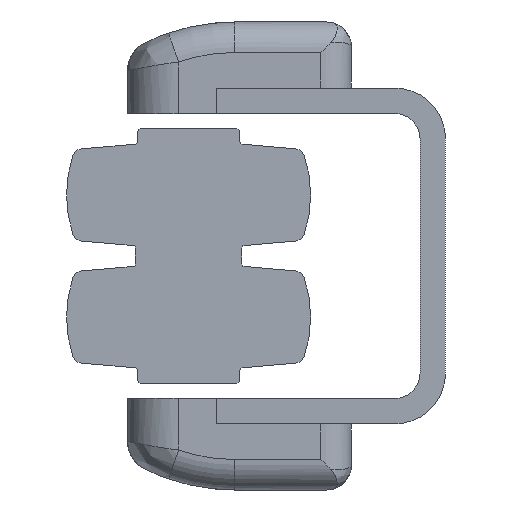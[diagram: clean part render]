
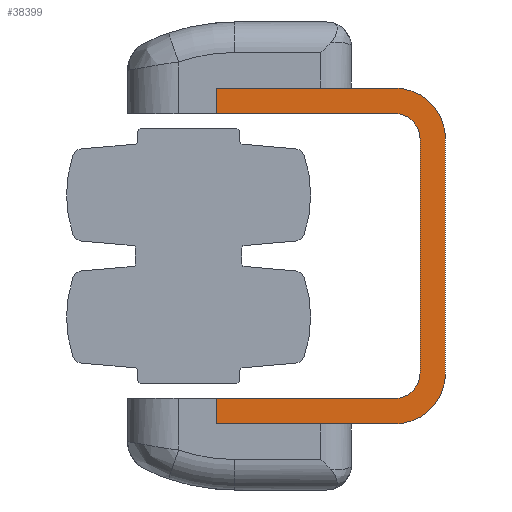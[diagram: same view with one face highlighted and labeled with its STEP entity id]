
A CAD part, left-side view. The second image highlights one B-rep face of the part: STEP entity #38399.
In plain terms, the highlighted planar face has unit normal (-1, 0, 0).
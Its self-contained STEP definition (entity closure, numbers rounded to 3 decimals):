
#18763=EDGE_CURVE('',#53745,#53746,#53747,.T.);
#21275=EDGE_CURVE('',#58094,#58095,#58096,.T.);
#26719=EDGE_CURVE('',#64265,#58289,#66720,.T.);
#26839=EDGE_CURVE('',#66902,#64265,#66903,.T.);
#28147=EDGE_CURVE('',#58095,#66902,#68816,.T.);
#28795=EDGE_CURVE('',#69761,#53745,#69762,.F.);
#34417=EDGE_CURVE('',#77416,#69761,#77417,.T.);
#34439=EDGE_CURVE('',#63620,#59385,#77446,.T.);
#38399=ADVANCED_FACE('',(#82385),#82386,.F.);
#41255=EDGE_CURVE('',#58289,#63620,#85832,.T.);
#44505=EDGE_CURVE('',#59385,#66530,#89595,.T.);
#45043=EDGE_CURVE('',#53746,#58094,#90222,.T.);
#48197=EDGE_CURVE('',#66530,#77416,#93826,.F.);
#53745=VERTEX_POINT('',#101535);
#53746=VERTEX_POINT('',#101536);
#53747=LINE('',#101537,#101538);
#58094=VERTEX_POINT('',#108200);
#58095=VERTEX_POINT('',#108201);
#58096=LINE('',#108202,#108203);
#58289=VERTEX_POINT('',#108574);
#59385=VERTEX_POINT('',#110331);
#63620=VERTEX_POINT('',#117674);
#64265=VERTEX_POINT('',#118680);
#66530=VERTEX_POINT('',#122490);
#66720=CIRCLE('',#122818,5.0);
#66902=VERTEX_POINT('',#123084);
#66903=LINE('',#123085,#123086);
#68816=CIRCLE('',#126335,5.0);
#69761=VERTEX_POINT('',#128058);
#69762=CIRCLE('',#128059,2.5);
#77416=VERTEX_POINT('',#141404);
#77417=LINE('',#141405,#141406);
#77446=LINE('',#141455,#141456);
#82385=FACE_OUTER_BOUND('',#150627,.T.);
#82386=PLANE('',#150628);
#85832=LINE('',#157062,#157063);
#89595=LINE('',#164726,#164727);
#90222=LINE('',#165944,#165945);
#93826=CIRCLE('',#172955,2.5);
#101535=CARTESIAN_POINT('',(-500.0,5.0,14.0));
#101536=CARTESIAN_POINT('',(-500.0,22.5,14.0));
#101537=CARTESIAN_POINT('',(-500.0,13.75,14.0));
#101538=VECTOR('',#179983,1.0);
#108200=CARTESIAN_POINT('',(-500.0,22.5,16.5));
#108201=CARTESIAN_POINT('',(-500.0,5.0,16.5));
#108202=CARTESIAN_POINT('',(-500.0,13.75,16.5));
#108203=VECTOR('',#183850,1.0);
#108574=CARTESIAN_POINT('',(-500.0,5.0,-16.5));
#110331=CARTESIAN_POINT('',(-500.0,22.5,-14.0));
#117674=CARTESIAN_POINT('',(-500.0,22.5,-16.5));
#118680=CARTESIAN_POINT('',(-500.0,0.0,-11.5));
#122490=CARTESIAN_POINT('',(-500.0,5.0,-14.0));
#122818=AXIS2_PLACEMENT_3D('',#192778,#192779,#192780);
#123084=CARTESIAN_POINT('',(-500.0,0.0,11.5));
#123085=CARTESIAN_POINT('',(-500.0,0.0,0.0));
#123086=VECTOR('',#192964,1.0);
#126335=AXIS2_PLACEMENT_3D('',#194823,#194824,#194825);
#128058=CARTESIAN_POINT('',(-500.0,2.5,11.5));
#128059=AXIS2_PLACEMENT_3D('',#195668,#195669,#195670);
#141404=CARTESIAN_POINT('',(-500.0,2.5,-11.5));
#141405=CARTESIAN_POINT('',(-500.0,2.5,0.0));
#141406=VECTOR('',#204794,1.0);
#141455=CARTESIAN_POINT('',(-500.0,22.5,-15.25));
#141456=VECTOR('',#204820,1.0);
#150627=EDGE_LOOP('',(#210637,#210638,#210639,#210640,#210641,#210642,#210643,#210644,#210645,#210646,#210647,#210648));
#150628=AXIS2_PLACEMENT_3D('',#210649,#210650,#210651);
#157062=CARTESIAN_POINT('',(-500.0,13.75,-16.5));
#157063=VECTOR('',#214590,1.0);
#164726=CARTESIAN_POINT('',(-500.0,13.75,-14.0));
#164727=VECTOR('',#219326,1.0);
#165944=CARTESIAN_POINT('',(-500.0,22.5,15.25));
#165945=VECTOR('',#220392,1.0);
#172955=AXIS2_PLACEMENT_3D('',#225473,#225474,#225475);
#179983=DIRECTION('',(0.0,1.0,0.0));
#183850=DIRECTION('',(0.0,-1.0,0.0));
#192778=CARTESIAN_POINT('',(-500.0,5.0,-11.5));
#192779=DIRECTION('',(1.0,0.0,0.0));
#192780=DIRECTION('',(0.0,1.0,0.0));
#192964=DIRECTION('',(0.0,0.0,-1.0));
#194823=CARTESIAN_POINT('',(-500.0,5.0,11.5));
#194824=DIRECTION('',(1.0,0.0,0.0));
#194825=DIRECTION('',(0.0,1.0,0.0));
#195668=CARTESIAN_POINT('',(-500.0,5.0,11.5));
#195669=DIRECTION('',(1.0,0.0,0.0));
#195670=DIRECTION('',(0.0,1.0,0.0));
#204794=DIRECTION('',(0.0,0.0,1.0));
#204820=DIRECTION('',(0.0,0.0,1.0));
#210637=ORIENTED_EDGE('',*,*,#28147,.F.);
#210638=ORIENTED_EDGE('',*,*,#21275,.F.);
#210639=ORIENTED_EDGE('',*,*,#45043,.F.);
#210640=ORIENTED_EDGE('',*,*,#18763,.F.);
#210641=ORIENTED_EDGE('',*,*,#28795,.F.);
#210642=ORIENTED_EDGE('',*,*,#34417,.F.);
#210643=ORIENTED_EDGE('',*,*,#48197,.F.);
#210644=ORIENTED_EDGE('',*,*,#44505,.F.);
#210645=ORIENTED_EDGE('',*,*,#34439,.F.);
#210646=ORIENTED_EDGE('',*,*,#41255,.F.);
#210647=ORIENTED_EDGE('',*,*,#26719,.F.);
#210648=ORIENTED_EDGE('',*,*,#26839,.F.);
#210649=CARTESIAN_POINT('',(-500.0,0.0,0.0));
#210650=DIRECTION('',(1.0,0.0,0.0));
#210651=DIRECTION('',(0.0,1.0,-0.0));
#214590=DIRECTION('',(0.0,1.0,0.0));
#219326=DIRECTION('',(0.0,-1.0,0.0));
#220392=DIRECTION('',(0.0,0.0,1.0));
#225473=CARTESIAN_POINT('',(-500.0,5.0,-11.5));
#225474=DIRECTION('',(1.0,0.0,0.0));
#225475=DIRECTION('',(0.0,1.0,0.0));
